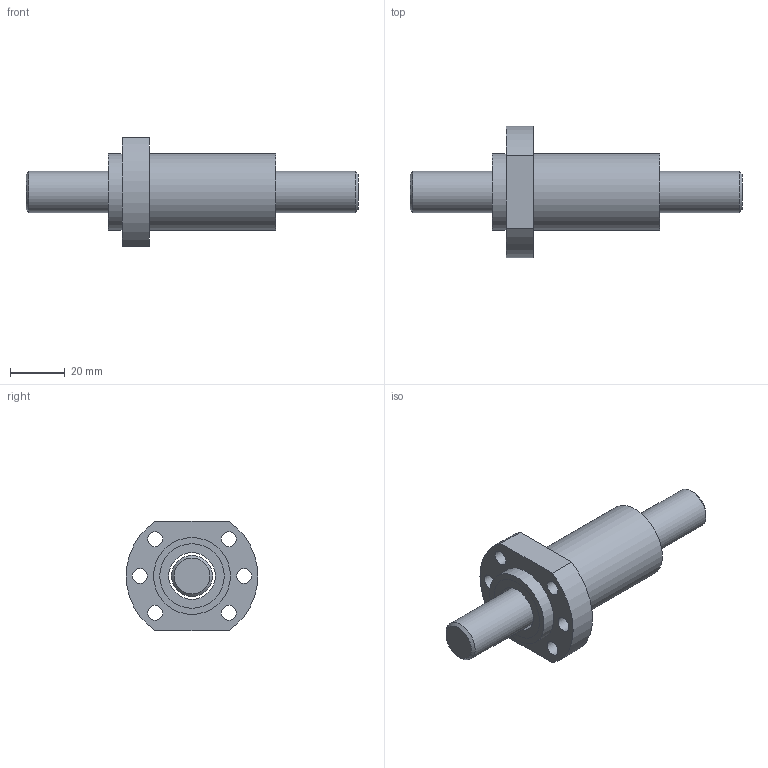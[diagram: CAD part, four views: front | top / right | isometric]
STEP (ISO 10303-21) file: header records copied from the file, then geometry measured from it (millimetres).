
FILE_DESCRIPTION(/* description */ (''),/* implementation_level */ '2;1');
FILE_NAME(/* name */ 'SFH1616-2.8.stp',/* time_stamp */ '2015-11-23T08:40:41+08:00',/* author */ (''),/* organization */ (''),/* preprocessor_version */ 'ST-DEVELOPER v11',/* originating_system */ 'SIEMENS UGS NX 6.0',/* authorisation */ '');
FILE_SCHEMA (('CONFIG_CONTROL_DESIGN'));
Length unit declared in the file: millimetre
Products named in the file (1): fann7DDE8qsd
Bounding box: 121 x 48 x 40 mm (x, y, z)
Volume: 54124.6 mm3; surface area: 22122.6 mm2
Topology: 4 solids, 4 shells, 50 faces, 90 edges, 60 vertices
Faces by surface type: cylinder 26, plane 22, cone 2
Full cylindrical faces by diameter (mm): 5.5 x6, 15 x1, 17 x3, 20 x4, 23.5 x4, 25 x4, 28 x2
Entity records: 1216 total; most frequent: DIRECTION 218, CARTESIAN_POINT 171, ORIENTED_EDGE 124, EDGE_LOOP 106, AXIS2_PLACEMENT_3D 105, FACE_BOUND 100, EDGE_CURVE 62, VERTEX_POINT 58
